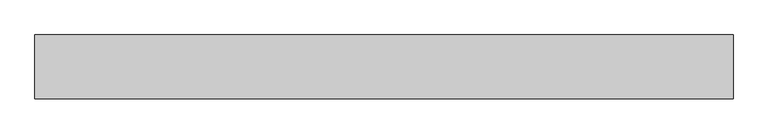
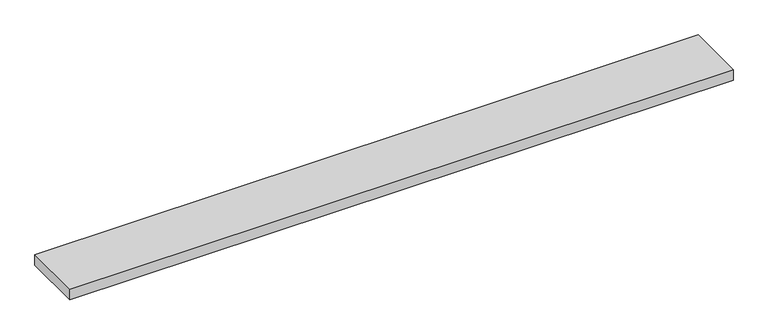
"""IFC4 building model written with IfcOpenShell, lengths in millimetres: proxy geometry, Vita_Решетка : РАП_Алюминиевая продольная."""

from ifc_helpers import new_model, si_unit, frame, origin, place, context, project, spatial, polyline, outline, extrude, source, transform, mapped, element, save


def mechanical_equipment_349224de(model_context):
    return source(origin(), model_context, "Body", "SweptSolid", [
        extrude(outline(polyline([(-599.0, -112.8), (599.0, -112.8), (599.0, -222.2), (-599.0, -222.2), (-599.0, -112.8)])), frame((0.0, 0.0, 259.83), z_axis=(0.0, 0.0, 1.0), x_axis=(1.0, 0.0, 0.0)), (0.0, 0.0, 1.0), 20.17),
    ])


if __name__ == "__main__":
    model = new_model("IFC4")
    model_context = context("Model", 3, world=origin())
    ifc_project = project(units=[si_unit("LENGTHUNIT", "METRE", prefix="MILLI")], contexts=[model_context])
    site = spatial("IfcSite", under=ifc_project)
    building = spatial("IfcBuilding", under=site)
    placement = place(None, origin())
    mechanical_equipment_shape = mechanical_equipment_349224de(model_context)
    element("IfcBuildingElementProxy", 1, Name="Vita_Решетка : РАП_Алюминиевая продольная", ObjectType="Vita_Решетка : РАП_Алюминиевая продольная", at=placement, inside=building, context=model_context, shape_type="MappedRepresentation", body=[
        mapped(mechanical_equipment_shape, transform((0.0, 0.0, 0.0), x_axis=(1.0, 0.0, 0.0), y_axis=(0.0, 1.0, 0.0), z_axis=(0.0, 0.0, 1.0))),
    ])
    save(model, "model.ifc")
